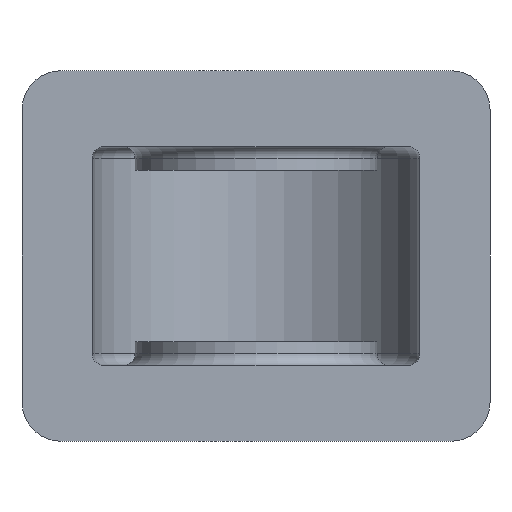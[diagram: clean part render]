
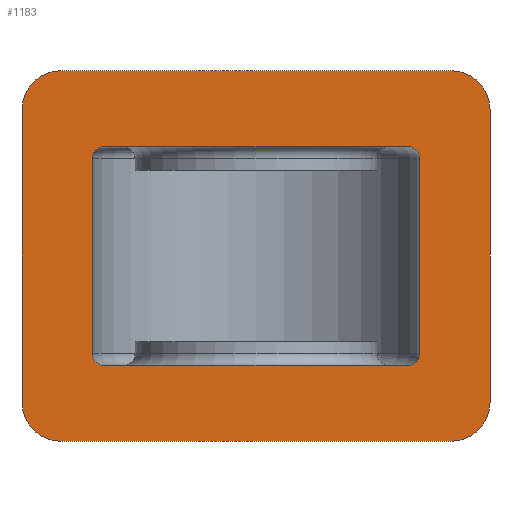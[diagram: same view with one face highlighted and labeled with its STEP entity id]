
A CAD part, front view. The second image highlights one B-rep face of the part: STEP entity #1183.
In plain terms, the highlighted planar face has unit normal (0, -1, 0).
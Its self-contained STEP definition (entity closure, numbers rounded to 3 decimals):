
#17=LINE('',#1865,#69);
#20=LINE('',#1880,#72);
#45=LINE('',#2018,#97);
#49=LINE('',#2027,#101);
#52=LINE('',#2054,#104);
#55=LINE('',#2062,#107);
#59=LINE('',#2076,#111);
#66=LINE('',#2106,#118);
#69=VECTOR('',#1470,78.);
#72=VECTOR('',#1485,78.);
#97=VECTOR('',#1646,100.);
#101=VECTOR('',#1656,75.);
#104=VECTOR('',#1695,100.);
#107=VECTOR('',#1704,75.);
#111=VECTOR('',#1720,50.);
#118=VECTOR('',#1761,50.);
#147=PLANE('',#1365);
#228=FACE_BOUND('',#441,.T.);
#313=FACE_OUTER_BOUND('',#440,.T.);
#440=EDGE_LOOP('',(#1065,#1066,#1067,#1068,#1069,#1070,#1071,#1072));
#441=EDGE_LOOP('',(#1073,#1074,#1075,#1076,#1077,#1078,#1079,#1080));
#515=CIRCLE('',#1311,10.);
#516=CIRCLE('',#1314,10.);
#521=CIRCLE('',#1332,10.);
#522=CIRCLE('',#1335,10.);
#524=CIRCLE('',#1338,3.);
#526=CIRCLE('',#1342,3.);
#529=CIRCLE('',#1348,3.);
#533=CIRCLE('',#1355,3.);
#565=VERTEX_POINT('',#1858);
#568=VERTEX_POINT('',#1863);
#571=VERTEX_POINT('',#1873);
#574=VERTEX_POINT('',#1878);
#618=VERTEX_POINT('',#2015);
#619=VERTEX_POINT('',#2017);
#620=VERTEX_POINT('',#2021);
#621=VERTEX_POINT('',#2025);
#622=VERTEX_POINT('',#2029);
#627=VERTEX_POINT('',#2052);
#628=VERTEX_POINT('',#2056);
#629=VERTEX_POINT('',#2060);
#631=VERTEX_POINT('',#2067);
#632=VERTEX_POINT('',#2072);
#637=VERTEX_POINT('',#2091);
#639=VERTEX_POINT('',#2101);
#671=EDGE_CURVE('',#565,#568,#17,.T.);
#677=EDGE_CURVE('',#571,#574,#20,.T.);
#743=EDGE_CURVE('',#618,#619,#45,.T.);
#746=EDGE_CURVE('',#620,#618,#515,.T.);
#748=EDGE_CURVE('',#621,#620,#49,.T.);
#750=EDGE_CURVE('',#622,#621,#516,.T.);
#756=EDGE_CURVE('',#627,#622,#52,.T.);
#758=EDGE_CURVE('',#628,#627,#521,.T.);
#760=EDGE_CURVE('',#629,#628,#55,.T.);
#761=EDGE_CURVE('',#619,#629,#522,.T.);
#764=EDGE_CURVE('',#631,#565,#524,.T.);
#767=EDGE_CURVE('',#632,#631,#59,.T.);
#769=EDGE_CURVE('',#574,#632,#526,.T.);
#776=EDGE_CURVE('',#568,#637,#529,.T.);
#781=EDGE_CURVE('',#639,#571,#533,.T.);
#783=EDGE_CURVE('',#637,#639,#66,.T.);
#1065=ORIENTED_EDGE('',*,*,#743,.F.);
#1066=ORIENTED_EDGE('',*,*,#746,.F.);
#1067=ORIENTED_EDGE('',*,*,#748,.F.);
#1068=ORIENTED_EDGE('',*,*,#750,.F.);
#1069=ORIENTED_EDGE('',*,*,#756,.F.);
#1070=ORIENTED_EDGE('',*,*,#758,.F.);
#1071=ORIENTED_EDGE('',*,*,#760,.F.);
#1072=ORIENTED_EDGE('',*,*,#761,.F.);
#1073=ORIENTED_EDGE('',*,*,#781,.T.);
#1074=ORIENTED_EDGE('',*,*,#677,.T.);
#1075=ORIENTED_EDGE('',*,*,#769,.T.);
#1076=ORIENTED_EDGE('',*,*,#767,.T.);
#1077=ORIENTED_EDGE('',*,*,#764,.T.);
#1078=ORIENTED_EDGE('',*,*,#671,.T.);
#1079=ORIENTED_EDGE('',*,*,#776,.T.);
#1080=ORIENTED_EDGE('',*,*,#783,.T.);
#1183=ADVANCED_FACE('',(#313,#228),#147,.T.);
#1311=AXIS2_PLACEMENT_3D('',#2023,#1651,#1652);
#1314=AXIS2_PLACEMENT_3D('',#2031,#1660,#1661);
#1332=AXIS2_PLACEMENT_3D('',#2058,#1699,#1700);
#1335=AXIS2_PLACEMENT_3D('',#2064,#1707,#1708);
#1338=AXIS2_PLACEMENT_3D('',#2070,#1714,#1715);
#1342=AXIS2_PLACEMENT_3D('',#2079,#1725,#1726);
#1348=AXIS2_PLACEMENT_3D('',#2093,#1741,#1742);
#1355=AXIS2_PLACEMENT_3D('',#2103,#1756,#1757);
#1365=AXIS2_PLACEMENT_3D('',#2115,#1778,#1779);
#1470=DIRECTION('',(-1.,0.,0.));
#1485=DIRECTION('',(1.,0.,0.));
#1646=DIRECTION('',(1.,0.,0.));
#1651=DIRECTION('center_axis',(0.,1.,0.));
#1652=DIRECTION('ref_axis',(0.,0.,
-1.));
#1656=DIRECTION('',(0.,0.,1.));
#1660=DIRECTION('center_axis',(0.,1.,0.));
#1661=DIRECTION('ref_axis',(1.,0.,0.));
#1695=DIRECTION('',(-1.,0.,0.));
#1699=DIRECTION('center_axis',(0.,1.,0.));
#1700=DIRECTION('ref_axis',(0.,0.,1.));
#1704=DIRECTION('',(0.,0.,-1.));
#1707=DIRECTION('center_axis',(0.,1.,0.));
#1708=DIRECTION('ref_axis',(-1.,0.,0.));
#1714=DIRECTION('center_axis',(0.,1.,0.));
#1715=DIRECTION('ref_axis',(0.707,0.,-0.707));
#1720=DIRECTION('',(0.,0.,-1.));
#1725=DIRECTION('center_axis',(0.,1.,0.));
#1726=DIRECTION('ref_axis',(0.707,0.,0.707));
#1741=DIRECTION('center_axis',(0.,1.,0.));
#1742=DIRECTION('ref_axis',(-0.707,0.,-0.707));
#1756=DIRECTION('center_axis',(0.,1.,0.));
#1757=DIRECTION('ref_axis',(-0.707,0.,0.707));
#1761=DIRECTION('',(0.,0.,1.));
#1778=DIRECTION('center_axis',(0.,-1.,0.));
#1779=DIRECTION('ref_axis',(1.,0.,0.));
#1858=CARTESIAN_POINT('',(39.,0.,-28.));
#1863=CARTESIAN_POINT('',(-39.,0.,-28.));
#1865=CARTESIAN_POINT('',(-25.5,0.,-28.));
#1873=CARTESIAN_POINT('',(-39.,0.,28.));
#1878=CARTESIAN_POINT('',(39.,0.,28.));
#1880=CARTESIAN_POINT('',(-25.5,0.,28.));
#2015=CARTESIAN_POINT('',(-50.,0.,47.5));
#2017=CARTESIAN_POINT('',(50.,0.,47.5));
#2018=CARTESIAN_POINT('',(-50.,0.,47.5));
#2021=CARTESIAN_POINT('',(-60.,0.,37.5));
#2023=CARTESIAN_POINT('Origin',(-50.,0.,37.5));
#2025=CARTESIAN_POINT('',(-60.,0.,-37.5));
#2027=CARTESIAN_POINT('',(-60.,0.,-37.5));
#2029=CARTESIAN_POINT('',(-50.,0.,-47.5));
#2031=CARTESIAN_POINT('Origin',(-50.,0.,-37.5));
#2052=CARTESIAN_POINT('',(50.,0.,-47.5));
#2054=CARTESIAN_POINT('',(50.,0.,-47.5));
#2056=CARTESIAN_POINT('',(60.,0.,-37.5));
#2058=CARTESIAN_POINT('Origin',(50.,0.,-37.5));
#2060=CARTESIAN_POINT('',(60.,0.,37.5));
#2062=CARTESIAN_POINT('',(60.,0.,37.5));
#2064=CARTESIAN_POINT('Origin',(50.,0.,37.5));
#2067=CARTESIAN_POINT('',(42.,0.,-25.));
#2070=CARTESIAN_POINT('Origin',(39.,0.,-25.));
#2072=CARTESIAN_POINT('',(42.,0.,25.));
#2076=CARTESIAN_POINT('',(42.,0.,0.));
#2079=CARTESIAN_POINT('Origin',(39.,0.,25.));
#2091=CARTESIAN_POINT('',(-42.,0.,-25.));
#2093=CARTESIAN_POINT('Origin',(-39.,0.,-25.));
#2101=CARTESIAN_POINT('',(-42.,0.,25.));
#2103=CARTESIAN_POINT('Origin',(-39.,0.,25.));
#2106=CARTESIAN_POINT('',(-42.,0.,0.));
#2115=CARTESIAN_POINT('Origin',(-51.,0.,0.));
